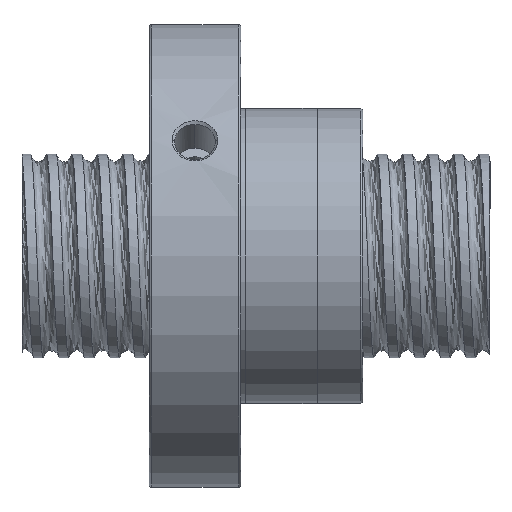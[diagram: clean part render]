
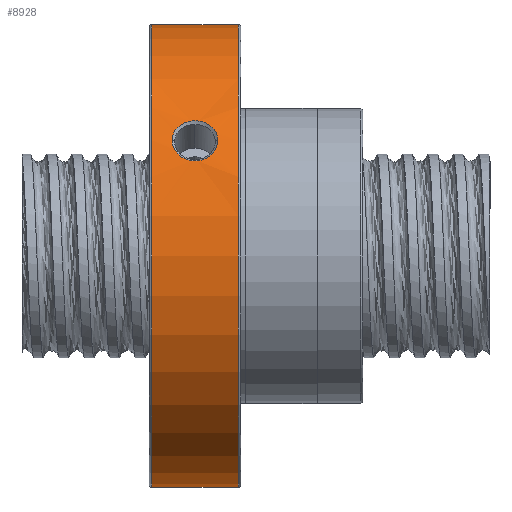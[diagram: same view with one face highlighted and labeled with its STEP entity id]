
A CAD part, front view. The second image highlights one B-rep face of the part: STEP entity #8928.
In plain terms, the highlighted cylindrical face has radius 45.5 mm (diameter 91 mm), a partial arc.
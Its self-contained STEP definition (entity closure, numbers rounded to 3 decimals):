
#658 = VERTEX_POINT ( 'NONE', #9238 ) ;
#659 = VERTEX_POINT ( 'NONE', #9237 ) ;
#5466 = EDGE_CURVE ( 'NONE', #5474, #7075, #24729, .T. ) ;
#5474 = VERTEX_POINT ( 'NONE', #24772 ) ;
#6137 = EDGE_CURVE ( 'NONE', #8636, #658, #24850, .T. ) ;
#6138 = EDGE_CURVE ( 'NONE', #8619, #659, #24843, .T. ) ;
#7075 = VERTEX_POINT ( 'NONE', #25245 ) ;
#8619 = VERTEX_POINT ( 'NONE', #26304 ) ;
#8636 = VERTEX_POINT ( 'NONE', #26291 ) ;
#8928 = ADVANCED_FACE ( 'NONE', ( #26326, #26329 ), #26320, .T. ) ;
#8929 = ORIENTED_EDGE ( 'NONE', *, *, #5466, .T. ) ;
#8938 = ORIENTED_EDGE ( 'NONE', *, *, #8951, .T. ) ;
#8951 = EDGE_CURVE ( 'NONE', #7075, #5474, #26480, .T. ) ;
#8954 = EDGE_CURVE ( 'NONE', #658, #659, #26476, .T. ) ;
#8955 = ORIENTED_EDGE ( 'NONE', *, *, #6137, .T. ) ;
#8956 = ORIENTED_EDGE ( 'NONE', *, *, #8954, .T. ) ;
#8957 = EDGE_LOOP ( 'NONE', ( #8929, #8938 ) ) ;
#8959 = ORIENTED_EDGE ( 'NONE', *, *, #6138, .F. ) ;
#8960 = ORIENTED_EDGE ( 'NONE', *, *, #8962, .T. ) ;
#8961 = EDGE_LOOP ( 'NONE', ( #8959, #8960, #8955, #8956 ) ) ;
#8962 = EDGE_CURVE ( 'NONE', #8619, #8636, #26524, .T. ) ;
#9237 = CARTESIAN_POINT ( 'NONE',  ( -41.5, 0., -45.5 ) ) ;
#9238 = CARTESIAN_POINT ( 'NONE',  ( -41.5, 0., 45.5 ) ) ;
#24728 = CARTESIAN_POINT ( 'NONE',  ( -37.5, -39.404, 22.75 ) ) ;
#24729 = B_SPLINE_CURVE_WITH_KNOTS ( 'NONE', 3,
 ( #24728, #24790, #24789, #24788, #24787, #24786, #24785, #24784, #24783, #24782, #24781, #24780, #24779, #24778, #24777, #24776, #24775, #24774 ),
 .UNSPECIFIED., .F., .F.,
 ( 4, 2, 2, 2, 2, 2, 2, 2, 4 ),
 ( 0., 0.063, 0.125, 0.188, 0.25, 0.313, 0.375, 0.438, 0.5 ),
 .UNSPECIFIED. ) ;
#24772 = CARTESIAN_POINT ( 'NONE',  ( -37.5, -39.404, 22.75 ) ) ;
#24774 = CARTESIAN_POINT ( 'NONE',  ( -28.5, -39.404, 22.75 ) ) ;
#24775 = CARTESIAN_POINT ( 'NONE',  ( -28.5, -39.105, 23.268 ) ) ;
#24776 = CARTESIAN_POINT ( 'NONE',  ( -28.616, -38.804, 23.766 ) ) ;
#24777 = CARTESIAN_POINT ( 'NONE',  ( -29.078, -38.204, 24.719 ) ) ;
#24778 = CARTESIAN_POINT ( 'NONE',  ( -29.402, -37.933, 25.13 ) ) ;
#24779 = CARTESIAN_POINT ( 'NONE',  ( -30.237, -37.459, 25.831 ) ) ;
#24780 = CARTESIAN_POINT ( 'NONE',  ( -30.724, -37.271, 26.1 ) ) ;
#24781 = CARTESIAN_POINT ( 'NONE',  ( -31.839, -37.001, 26.481 ) ) ;
#24782 = CARTESIAN_POINT ( 'NONE',  ( -32.413, -36.932, 26.576 ) ) ;
#24783 = CARTESIAN_POINT ( 'NONE',  ( -33.592, -36.932, 26.576 ) ) ;
#24784 = CARTESIAN_POINT ( 'NONE',  ( -34.166, -37.001, 26.481 ) ) ;
#24785 = CARTESIAN_POINT ( 'NONE',  ( -35.279, -37.272, 26.099 ) ) ;
#24786 = CARTESIAN_POINT ( 'NONE',  ( -35.765, -37.46, 25.83 ) ) ;
#24787 = CARTESIAN_POINT ( 'NONE',  ( -36.598, -37.933, 25.13 ) ) ;
#24788 = CARTESIAN_POINT ( 'NONE',  ( -36.922, -38.205, 24.717 ) ) ;
#24789 = CARTESIAN_POINT ( 'NONE',  ( -37.384, -38.805, 23.764 ) ) ;
#24790 = CARTESIAN_POINT ( 'NONE',  ( -37.5, -39.106, 23.267 ) ) ;
#24840 = DIRECTION ( 'NONE',  ( -1., 0., 0. ) ) ;
#24841 = VECTOR ( 'NONE', #24840, 1000. ) ;
#24842 = CARTESIAN_POINT ( 'NONE',  ( 0., 0., -45.5 ) ) ;
#24843 = LINE ( 'NONE', #24842, #24841 ) ;
#24844 = DIRECTION ( 'NONE',  ( -1., 0., 0. ) ) ;
#24845 = VECTOR ( 'NONE', #24844, 1000. ) ;
#24846 = CARTESIAN_POINT ( 'NONE',  ( 0., 0., 45.5 ) ) ;
#24850 = LINE ( 'NONE', #24846, #24845 ) ;
#25245 = CARTESIAN_POINT ( 'NONE',  ( -28.5, -39.404, 22.75 ) ) ;
#26291 = CARTESIAN_POINT ( 'NONE',  ( -24.5, 0., 45.5 ) ) ;
#26304 = CARTESIAN_POINT ( 'NONE',  ( -24.5, 0., -45.5 ) ) ;
#26320 = CYLINDRICAL_SURFACE ( 'NONE', #26401, 45.5 ) ;
#26326 = FACE_OUTER_BOUND ( 'NONE', #8961, .T. ) ;
#26329 = FACE_BOUND ( 'NONE', #8957, .T. ) ;
#26398 = DIRECTION ( 'NONE',  ( 0., 0., 1. ) ) ;
#26399 = DIRECTION ( 'NONE',  ( -1., 0., 0. ) ) ;
#26400 = CARTESIAN_POINT ( 'NONE',  ( 0., 0., 0. ) ) ;
#26401 = AXIS2_PLACEMENT_3D ( 'NONE', #26400, #26399, #26398 ) ;
#26456 = CARTESIAN_POINT ( 'NONE',  ( -35.765, -41.099, 19.526 ) ) ;
#26457 = CARTESIAN_POINT ( 'NONE',  ( -35.278, -41.238, 19.228 ) ) ;
#26458 = CARTESIAN_POINT ( 'NONE',  ( -34.166, -41.434, 18.803 ) ) ;
#26459 = CARTESIAN_POINT ( 'NONE',  ( -33.591, -41.482, 18.695 ) ) ;
#26460 = CARTESIAN_POINT ( 'NONE',  ( -32.413, -41.482, 18.696 ) ) ;
#26462 = CARTESIAN_POINT ( 'NONE',  ( -31.838, -41.434, 18.803 ) ) ;
#26463 = CARTESIAN_POINT ( 'NONE',  ( -30.725, -41.238, 19.227 ) ) ;
#26464 = CARTESIAN_POINT ( 'NONE',  ( -30.236, -41.1, 19.525 ) ) ;
#26466 = CARTESIAN_POINT ( 'NONE',  ( -29.403, -40.73, 20.285 ) ) ;
#26468 = CARTESIAN_POINT ( 'NONE',  ( -29.077, -40.509, 20.727 ) ) ;
#26469 = CARTESIAN_POINT ( 'NONE',  ( -28.732, -40.116, 21.472 ) ) ;
#26470 = CARTESIAN_POINT ( 'NONE',  ( -28.645, -39.98, 21.725 ) ) ;
#26472 = CARTESIAN_POINT ( 'NONE',  ( -28.529, -39.699, 22.234 ) ) ;
#26473 = DIRECTION ( 'NONE',  ( 0., 0., 1. ) ) ;
#26474 = DIRECTION ( 'NONE',  ( 1., 0., 0. ) ) ;
#26475 = AXIS2_PLACEMENT_3D ( 'NONE', #26479, #26474, #26473 ) ;
#26476 = CIRCLE ( 'NONE', #26475, 45.5 ) ;
#26477 = CARTESIAN_POINT ( 'NONE',  ( -28.5, -39.554, 22.491 ) ) ;
#26478 = CARTESIAN_POINT ( 'NONE',  ( -28.5, -39.404, 22.75 ) ) ;
#26479 = CARTESIAN_POINT ( 'NONE',  ( -41.5, 0., 0. ) ) ;
#26480 = B_SPLINE_CURVE_WITH_KNOTS ( 'NONE', 3,
 ( #26478, #26477, #26472, #26470, #26469, #26468, #26466, #26464, #26463, #26462, #26460, #26459, #26458, #26457, #26456, #26529, #26528, #26527, #26526, #26525 ),
 .UNSPECIFIED., .F., .F.,
 ( 4, 2, 2, 2, 2, 2, 2, 2, 2, 4 ),
 ( 0.5, 0.531, 0.562, 0.625, 0.687, 0.75, 0.812, 0.875, 0.937, 1. ),
 .UNSPECIFIED. ) ;
#26520 = DIRECTION ( 'NONE',  ( 0., 0., -1. ) ) ;
#26521 = DIRECTION ( 'NONE',  ( -1., 0., 0. ) ) ;
#26522 = CARTESIAN_POINT ( 'NONE',  ( -24.5, 0., 0. ) ) ;
#26523 = AXIS2_PLACEMENT_3D ( 'NONE', #26522, #26521, #26520 ) ;
#26524 = CIRCLE ( 'NONE', #26523, 45.5 ) ;
#26525 = CARTESIAN_POINT ( 'NONE',  ( -37.5, -39.404, 22.75 ) ) ;
#26526 = CARTESIAN_POINT ( 'NONE',  ( -37.5, -39.702, 22.234 ) ) ;
#26527 = CARTESIAN_POINT ( 'NONE',  ( -37.384, -39.982, 21.725 ) ) ;
#26528 = CARTESIAN_POINT ( 'NONE',  ( -36.922, -40.509, 20.727 ) ) ;
#26529 = CARTESIAN_POINT ( 'NONE',  ( -36.598, -40.729, 20.287 ) ) ;
